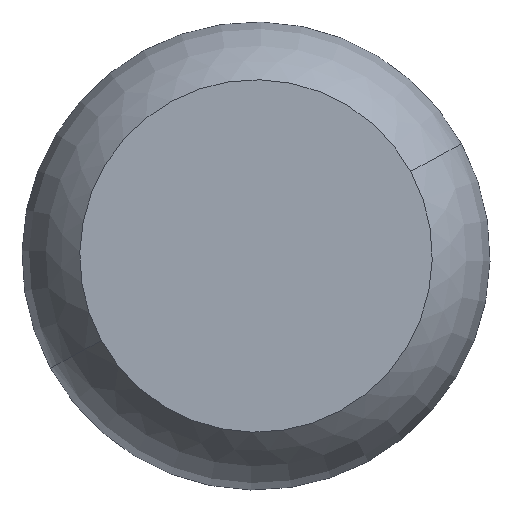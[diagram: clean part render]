
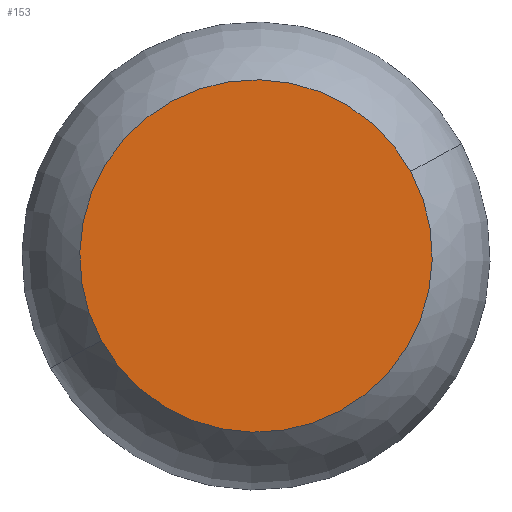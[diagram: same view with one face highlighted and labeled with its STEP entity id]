
A CAD part, front view. The second image highlights one B-rep face of the part: STEP entity #153.
In plain terms, the highlighted planar face has unit normal (0, -1, 0).
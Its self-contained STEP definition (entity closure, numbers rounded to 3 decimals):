
#66=CARTESIAN_POINT('Axis2P3D Location',(0.,0.,0.)) ;
#70=CARTESIAN_POINT('Vertex',(85.126,0.,46.504)) ;
#72=CARTESIAN_POINT('Vertex',(-85.126,0.,-46.504)) ;
#127=CARTESIAN_POINT('Axis2P3D Location',(0.,0.,0.)) ;
#144=CARTESIAN_POINT('Axis2P3D Location',(0.,0.,0.)) ;
#67=DIRECTION('Axis2P3D Direction',(0.,-1.,0.)) ;
#128=DIRECTION('Axis2P3D Direction',(0.,-1.,0.)) ;
#145=DIRECTION('Axis2P3D Direction',(0.,-1.,0.)) ;
#146=DIRECTION('Axis2P3D XDirection',(1.,0.,0.)) ;
#68=AXIS2_PLACEMENT_3D('Circle Axis2P3D',#66,#67,$) ;
#129=AXIS2_PLACEMENT_3D('Circle Axis2P3D',#127,#128,$) ;
#147=AXIS2_PLACEMENT_3D('Plane Axis2P3D',#144,#145,#146) ;
#150=ORIENTED_EDGE('',*,*,#74,.T.) ;
#151=ORIENTED_EDGE('',*,*,#131,.T.) ;
#153=ADVANCED_FACE('PartBody',(#152),#148,.T.) ;
#69=CIRCLE('generated circle',#68,97.) ;
#130=CIRCLE('generated circle',#129,97.) ;
#74=EDGE_CURVE('',#71,#73,#69,.T.) ;
#131=EDGE_CURVE('',#73,#71,#130,.T.) ;
#149=EDGE_LOOP('',(#150,#151)) ;
#152=FACE_OUTER_BOUND('',#149,.T.) ;
#148=PLANE('',#147) ;
#71=VERTEX_POINT('',#70) ;
#73=VERTEX_POINT('',#72) ;
